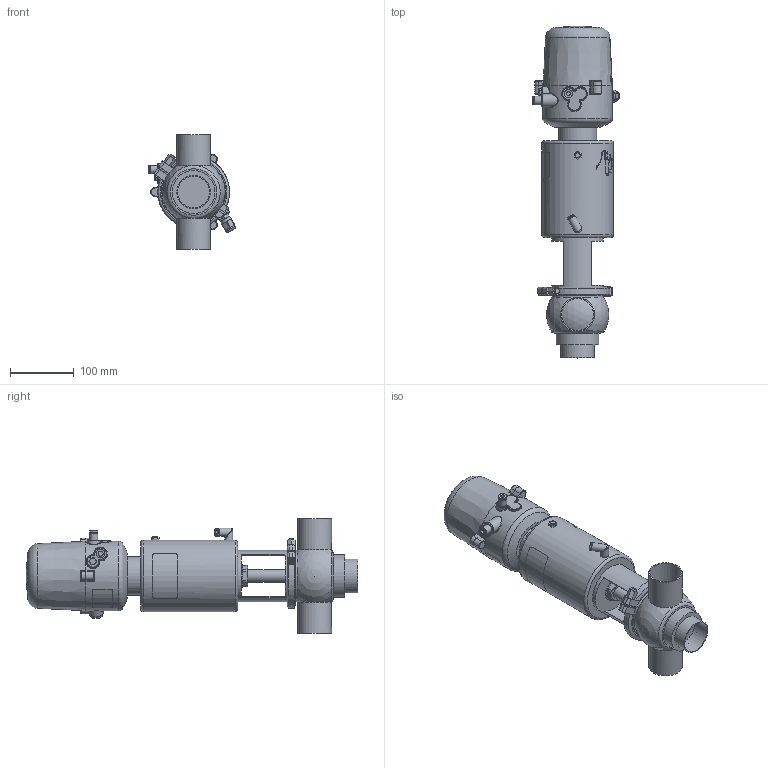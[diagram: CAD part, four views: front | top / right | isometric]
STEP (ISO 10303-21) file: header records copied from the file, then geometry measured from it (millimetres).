
FILE_DESCRIPTION (( 'STEP AP214' ), '1' );
FILE_NAME ('INNOVA N T W DIN 050 T2 AS NC & C-TOP S_10.240.16.0058.STEP', '2024-08-06T08:15:36', ( '' ), ( '' ), 'SwSTEP 2.0', 'SolidWorks 2023', '' );
FILE_SCHEMA (( 'AUTOMOTIVE_DESIGN' ));
Length unit declared in the file: millimetre
Products named in the file (7): 10.240.15.0014_T2 AS P0; 10.426.15.0001_C-TOP S - 1 EV; 10.240.15.0003_DIN 050; 10.240.15.0010_DN 050; 10.240.15.0017_Estàndard; 10.240.15.0001_DN 050; INNOVA N T W DIN 050 T2 AS NC & C-TOP S_10.240.16.0058
Assembly tree (6 placements, depth 2):
  INNOVA N T W DIN 050 T2 AS NC & C-TOP S_10.240.16.0058
    10.240.15.0003_DIN 050
    10.240.15.0010_DN 050
    10.240.15.0014_T2 AS P0
    10.240.15.0017_Estàndard
    10.426.15.0001_C-TOP S - 1 EV
    10.240.15.0001_DN 050
Bounding box: 136.88 x 521 x 180 mm (x, y, z)
Volume: 3641398.6 mm3; surface area: 300021.3 mm2
Topology: 6 solids, 6 shells, 1103 faces, 2649 edges, 1767 vertices
Faces by surface type: plane 376, cylinder 332, cone 191, bspline 160, torus 37, sphere 7
Full cylindrical faces by diameter (mm): 0.371 x17, 0.512 x16, 0.658 x16, 0.795 x16, 0.94 x15, 1.098 x15, 1.241 x13, 1.382 x13, 1.523 x11, 1.669 x10, 2.201 x1, 4 x2, 5.5 x2, 6 x2, 6.15 x1, 8 x4, 8.5 x1, 10 x1, 10.5 x1, 11 x2, 12.5 x3, 13 x2, 13.5 x2, 16 x1, 17 x3, 20 x3, 20.5 x1, 22 x2, 31 x1, 34.5 x3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
Entity records: 57853 total; most frequent: CARTESIAN_POINT 27830, ORIENTED_EDGE 4498, DIRECTION 3611, EDGE_CURVE 2249, VERTEX_POINT 1598, EDGE_LOOP 1553, AXIS2_PLACEMENT_3D 1477, FACE_OUTER_BOUND 1317
